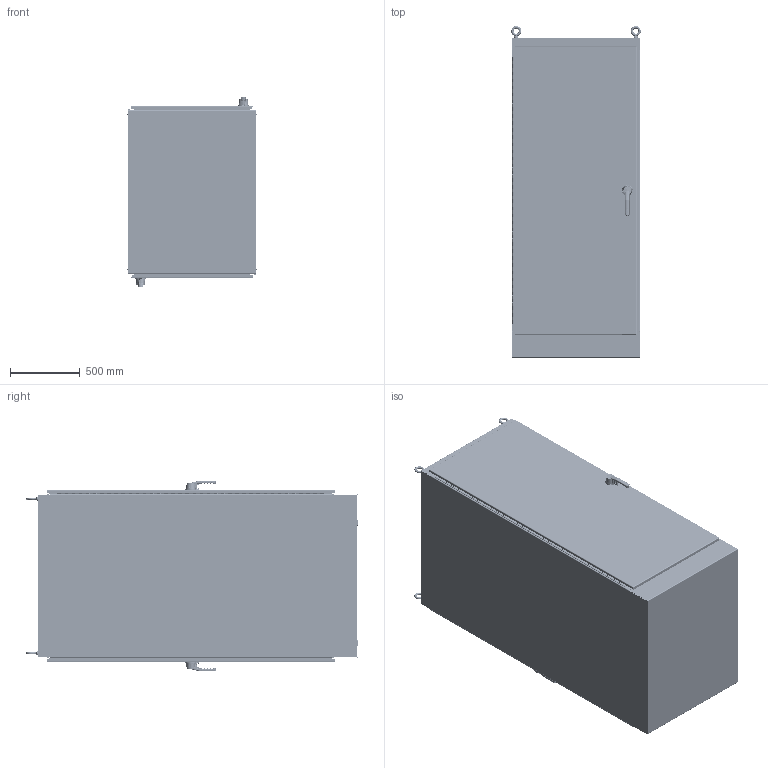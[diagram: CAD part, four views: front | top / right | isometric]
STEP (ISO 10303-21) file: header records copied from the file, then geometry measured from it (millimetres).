
FILE_DESCRIPTION (( 'STEP AP203' ), '1' );
FILE_NAME ('D903646SDAS.STEP', '2017-09-29T23:05:53', ( '' ), ( '' ), 'SwSTEP 2.0', 'SolidWorks 2014', '' );
FILE_SCHEMA (( 'CONFIG_CONTROL_DESIGN' ));
Length unit declared in the file: inch
Products named in the file (56): 27155001; 87794223_87794223; 89153164; 89153150; 89153155; 30101003; 35131001_35131001; 87567421; 89153146; 89153163; 89153148; 89153182; 27115001; 26118002_26118002; 87566030; 87568139; D903646SDAS; 89153149; 89153183; 22318002; 23418001; 87567410; 11158240; 11158241_11158241; 89153159_571TR002; 26274020_26274020; 89106810; 87567405_87567405; 99414350_Config-Drawing; 89153147; 89153158; 89153153; 89117126_LOCKED; 89106811; 35124002_35124002; 89062772; 89153154; 89153161; 89153152; 99411273_99411273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
Assembly tree (97 placements, depth 4):
  D903646SDAS
    89153146
      89153152
        89153153
      89153150
        89153151
        89060684
      89153147  x2
        89153148
        89153149
        11158241_11158241
      89153154  x2
      87573197  x4
      87932883  x4
      87794223_87794223  x4
    89117126_LOCKED
      89117110
        87568139
        11158240
        99414350_Config-Drawing  x2
        89062772
      87567405_87567405
        87567417
        27155001
        87567421
        87566030
        87567410
      35124002_35124002
      35261001
      35124001_35124001
      22101014  x3
      35131001_35131001
      26118002_26118002  x2
      23418001
      89106812_SETTING 2  x2
        89106810
        89106811
        99411273_99411273
      26274020_26274020  x2
        26273020_26273020
        30101003
        27115001
        22318002
    89117126_LOCKED
      89117110
        87568139
        11158240
        99414350_Config-Drawing  x2
        89062772
      87567405_87567405
        87567417
        27155001
        87567421
        87566030
        87567410
      35124002_35124002
      35261001
      35124001_35124001
      22101014  x3
      35131001_35131001
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Bounding box: 924.79 x 2370.38 x 1364.23 mm (x, y, z)
Volume: 42675232.4 mm3; surface area: 34486950.5 mm2
Topology: 116 solids, 116 shells, 20022 faces, 53371 edges, 34272 vertices
Faces by surface type: plane 10111, bspline 5555, cylinder 2504, torus 942, cone 790, sphere 120
Entity records: 470130 total; most frequent: CARTESIAN_POINT 210786, ORIENTED_EDGE 57494, DIRECTION 41810, EDGE_CURVE 28747, VECTOR 19638, LINE 19638, VERTEX_POINT 18682, EDGE_LOOP 12689
